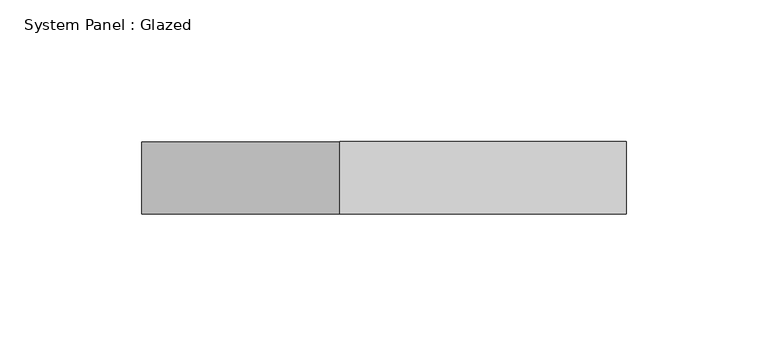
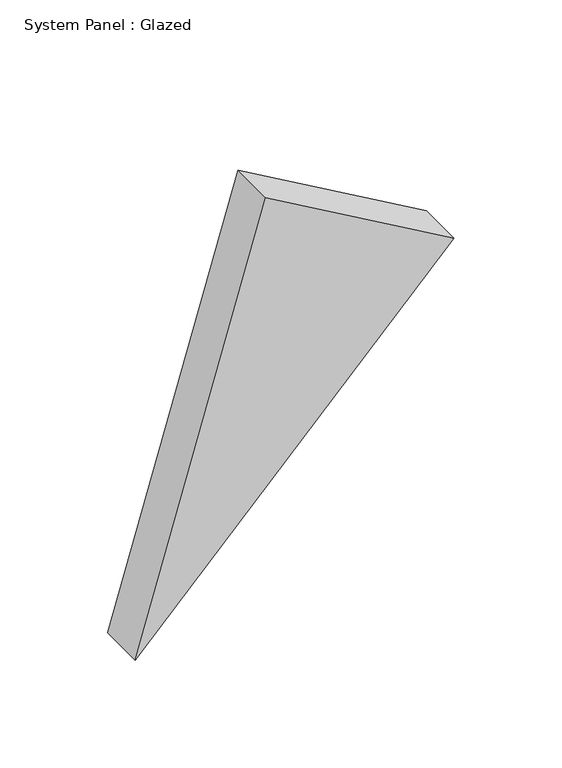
"""IFC4 building model written with IfcOpenShell, lengths in millimetres: plate geometry, System Panel : Glazed."""

import ifcopenshell
import ifcopenshell.guid

model = None  # the IFC model being written
_history = None  # IfcOwnerHistory: only IFC2X3 demands one
_inside = {}  # id of a spatial element -> (the spatial element, [elements in it])
_under = {}  # id of a project, library or spatial element -> (it, [spatial elements below it])
_declared = {}  # id of a project -> (the project, [libraries it declares])
_typed = {}  # id of a type object -> (the type object, [elements of that type])
_made_of = {}  # id of a material, layer set ... -> (it, [elements and type objects made of it])


def new_model(schema):
    """Start an empty IFC model of exactly this schema.

    Asked for "IFC4X3", IfcOpenShell would pick the latest addendum, in which some entities
    have other attributes; the version numbers below select the first issue.
    IFC2X3 requires an IfcOwnerHistory on every rooted entity: one is made here for all.
    """
    global model, _history
    if schema == "IFC4X3":
        model = ifcopenshell.file(schema_version=(4, 3, 0, 0))
    else:
        model = ifcopenshell.file(schema=schema)
    _inside.clear()
    _under.clear()
    _declared.clear()
    _typed.clear()
    _made_of.clear()
    _history = None
    if model.schema == "IFC2X3":
        org = make("IfcOrganization", Name="unknown")
        user = make(
            "IfcPersonAndOrganization",
            ThePerson=make("IfcPerson", FamilyName="unknown"),
            TheOrganization=org,
        )
        app = make(
            "IfcApplication",
            ApplicationDeveloper=org,
            Version="unknown",
            ApplicationFullName="unknown",
            ApplicationIdentifier="unknown",
        )
        _history = make(
            "IfcOwnerHistory",
            OwningUser=user,
            OwningApplication=app,
            ChangeAction="ADDED",
            CreationDate=0,
        )
    return model


def make(cls, **values):
    """One entity of the class cls with the attributes given. An attribute that is None is left unset."""
    return model.create_entity(
        cls, **{name: value for name, value in values.items() if value is not None}
    )


def rooted(cls, **values):
    """An entity with a GlobalId (a new one), such as an element, a storey or a relation."""
    return make(cls, GlobalId=ifcopenshell.guid.new(), OwnerHistory=_history, **values)


def si_unit(unit_type, name, prefix=None):
    """IfcSIUnit, for example si_unit("LENGTHUNIT", "METRE", prefix="MILLI")."""
    return make("IfcSIUnit", UnitType=unit_type, Prefix=prefix, Name=name)


def assignment(units):
    """IfcUnitAssignment: the units of a project."""
    return None if units is None else make("IfcUnitAssignment", Units=units)


def point(xyz):
    """IfcCartesianPoint."""
    return None if xyz is None else make("IfcCartesianPoint", Coordinates=xyz)


def direction(xyz):
    """IfcDirection."""
    return None if xyz is None else make("IfcDirection", DirectionRatios=xyz)


def frame(location, z_axis=None, x_axis=None):
    """IfcAxis2Placement3D, a coordinate frame: its origin and axes. An axis left out is left unset."""
    return make(
        "IfcAxis2Placement3D",
        Location=point(location),
        Axis=direction(z_axis),
        RefDirection=direction(x_axis),
    )


def origin():
    """The frame at (0, 0, 0) with its axes left unset."""
    return frame((0.0, 0.0, 0.0))


def place(relative_to, where):
    """IfcLocalPlacement: puts the frame where relative to a parent placement (None: the world)."""
    return make(
        "IfcLocalPlacement", PlacementRelTo=relative_to, RelativePlacement=where
    )


def context(
    kind, dimensions, precision=None, world=None, true_north=None, identifier=None
):
    """IfcGeometricRepresentationContext, for example the 3D "Model" context."""
    return make(
        "IfcGeometricRepresentationContext",
        ContextIdentifier=identifier,
        ContextType=kind,
        CoordinateSpaceDimension=dimensions,
        Precision=precision,
        WorldCoordinateSystem=world,
        TrueNorth=true_north,
    )


def project(units=None, contexts=None):
    """IfcProject with its units and contexts."""
    return rooted(
        "IfcProject",
        Name="project",
        RepresentationContexts=contexts,
        UnitsInContext=assignment(units),
    )


def spatial(cls, under=None, at=None, **own):
    """A site, building, storey or space (cls), placed at a placement, below another one or the project."""
    s = rooted(cls, ObjectPlacement=at, **own)
    if under is not None:
        _under.setdefault(under.id(), (under, []))[1].append(s)
    return s


def polyline(points):
    """IfcPolyline through the points."""
    return make("IfcPolyline", Points=[point(p) for p in points])


def outline(outer, holes=None, kind="AREA"):
    """IfcArbitraryClosedProfileDef: a profile drawn as a closed curve; with holes, ...WithVoids."""
    if holes is None:
        return make("IfcArbitraryClosedProfileDef", ProfileType=kind, OuterCurve=outer)
    return make(
        "IfcArbitraryProfileDefWithVoids",
        ProfileType=kind,
        OuterCurve=outer,
        InnerCurves=holes,
    )


def extrude(swept, where, along, depth):
    """IfcExtrudedAreaSolid: the profile swept, set in the frame where, extruded along a direction by depth."""
    return make(
        "IfcExtrudedAreaSolid",
        SweptArea=swept,
        Position=where,
        ExtrudedDirection=direction(along),
        Depth=depth,
    )


def shape(context_of_items, identifier, shape_type, items):
    """IfcShapeRepresentation: the items that make up one representation, for example the "Body"."""
    return make(
        "IfcShapeRepresentation",
        ContextOfItems=context_of_items,
        RepresentationIdentifier=identifier,
        RepresentationType=shape_type,
        Items=items,
    )


def source(mapping_origin, context_of_items, identifier, shape_type, items):
    """IfcRepresentationMap: a shape defined once, which mapped items show again and again."""
    return make(
        "IfcRepresentationMap",
        MappingOrigin=mapping_origin,
        MappedRepresentation=shape(context_of_items, identifier, shape_type, items),
    )


def transform(
    local_origin,
    x_axis=None,
    y_axis=None,
    z_axis=None,
    scale=None,
    scale2=None,
    scale3=None,
    uniform=True,
):
    """IfcCartesianTransformationOperator3D, or its non-uniform kind. x_axis, y_axis, z_axis: its Axis1, 2, 3."""
    if uniform:
        return make(
            "IfcCartesianTransformationOperator3D",
            Axis1=direction(x_axis),
            Axis2=direction(y_axis),
            LocalOrigin=point(local_origin),
            Scale=scale,
            Axis3=direction(z_axis),
        )
    return make(
        "IfcCartesianTransformationOperator3DnonUniform",
        Axis1=direction(x_axis),
        Axis2=direction(y_axis),
        LocalOrigin=point(local_origin),
        Scale=scale,
        Axis3=direction(z_axis),
        Scale2=scale2,
        Scale3=scale3,
    )


def mapped(mapping_source, mapping_target):
    """IfcMappedItem: shows the shape of a source again, moved by a transform."""
    return make(
        "IfcMappedItem", MappingSource=mapping_source, MappingTarget=mapping_target
    )


def made_of(thing, what):
    """Note that an element or type object is made of a material, layer set ...; save() writes the relation."""
    if what is not None:
        _made_of.setdefault(what.id(), (what, []))[1].append(thing)
    return thing


def element(
    cls,
    number,
    at=None,
    inside=None,
    cuts=None,
    type_object=None,
    material=None,
    context=None,
    identifier="Body",
    shape_type=None,
    held_by="IfcProductDefinitionShape",
    body=None,
    shapes=None,
    **own,
):
    """One element of the class cls, such as IfcWall. Its Tag is "e" and its number.

    at: its placement. inside: the storey or other place that contains it. cuts: it is an
    opening in that element (IfcRelVoidsElement). A single representation is given by context,
    identifier, shape_type and body (its items); several are given by shapes. held_by: the class
    of the entity that holds the representations. save() writes the other relations.
    """
    e = rooted(cls, Tag="e%d" % number, ObjectPlacement=at, **own)
    if body is not None:
        shapes = [shape(context, identifier, shape_type, body)]
    if shapes is not None:
        e.Representation = make(held_by, Representations=shapes)
    if inside is not None:
        _inside.setdefault(inside.id(), (inside, []))[1].append(e)
    if cuts is not None:
        rooted(
            "IfcRelVoidsElement", RelatingBuildingElement=cuts, RelatedOpeningElement=e
        )
    if type_object is not None:
        _typed.setdefault(type_object.id(), (type_object, []))[1].append(e)
    return made_of(e, material)


def aggregate(whole, parts):
    """IfcRelAggregates: a whole, such as a stair, and the parts it consists of."""
    return rooted("IfcRelAggregates", RelatingObject=whole, RelatedObjects=parts)


def save(model, path):
    """Write the relations noted so far, then the file.

    IfcRelAggregates (storeys below a building ...), IfcRelContainedInSpatialStructure (elements
    in a storey), IfcRelDefinesByType, IfcRelAssociatesMaterial and IfcRelDeclares: one each for
    every whole, place, type object, material and project.
    """
    for whole, parts in _under.values():
        aggregate(whole, parts)
    for where, things in _inside.values():
        rooted(
            "IfcRelContainedInSpatialStructure",
            RelatedElements=things,
            RelatingStructure=where,
        )
    for kind, things in _typed.values():
        rooted("IfcRelDefinesByType", RelatedObjects=things, RelatingType=kind)
    for what, things in _made_of.values():
        rooted("IfcRelAssociatesMaterial", RelatedObjects=things, RelatingMaterial=what)
    for by, libraries in _declared.values():
        rooted("IfcRelDeclares", RelatingContext=by, RelatedDefinitions=libraries)
    model.write(path)


def system_panel_glazed_9eb7958d(model_context):
    return source(origin(), model_context, "Body", "SweptSolid", [
        extrude(outline(polyline([(0.0, -85.2792404), (178.8182822, 85.2792404), (237.0658401, -15.5228005), (0.0, -85.2792404)])), frame((0.0, 19.05, 0.0), z_axis=(0.0, 1.0, 0.0), x_axis=(0.0, 0.0, 1.0)), (0.0, 0.0, 1.0), 25.4),
    ])


if __name__ == "__main__":
    model = new_model("IFC4")
    model_context = context("Model", 3, world=origin())
    ifc_project = project(units=[si_unit("LENGTHUNIT", "METRE", prefix="MILLI")], contexts=[model_context])
    site = spatial("IfcSite", under=ifc_project)
    building = spatial("IfcBuilding", under=site)
    placement = place(None, origin())
    system_panel_glazed_shape = system_panel_glazed_9eb7958d(model_context)
    element("IfcPlate", 1, ObjectType="System Panel : Glazed", at=placement, inside=building, context=model_context, shape_type="MappedRepresentation", body=[
        mapped(system_panel_glazed_shape, transform((0.0, 0.0, 0.0), x_axis=(1.0, 0.0, 0.0), y_axis=(0.0, 1.0, 0.0), z_axis=(0.0, 0.0, 1.0))),
    ])
    save(model, "model.ifc")
